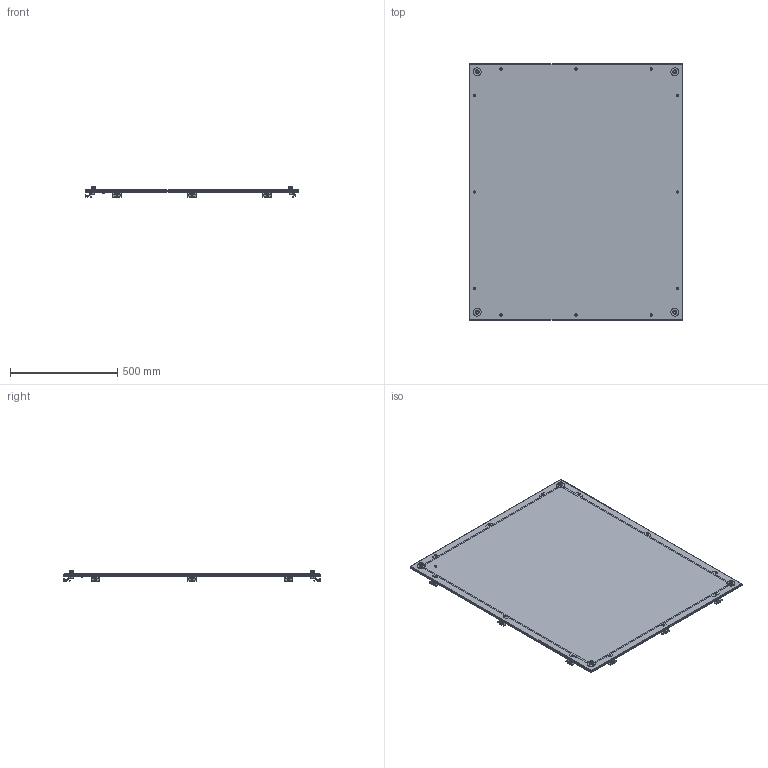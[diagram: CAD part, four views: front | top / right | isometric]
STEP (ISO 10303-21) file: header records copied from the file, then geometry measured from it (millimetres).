
FILE_DESCRIPTION(('STEP AP203'), '1');
FILE_NAME('3301 Êðûøà ÑÁ', '', ('UNSPECIFIED'), ('UNSPECIFIED'), 'C3D Converter', 'C3D Toolkit', '');
FILE_SCHEMA(('CONFIG_CONTROL_DESIGN'));
Length unit declared in the file: millimetre
Products named in the file (14): 3301.120.100; 3310; 3311; 3009.04.ПН; 3009.04.01.ПН; 3009.04.П-К; 3009.04.01.П-К
Assembly tree (56 placements, depth 3):
  3301.120.100
    3310
      3311
      (unnamed)
    (unnamed)  x12
    (unnamed)  x12
    (unnamed)  x4
    (unnamed)  x4
    3009.04.ПН  x3
      3009.04.01.ПН
      (unnamed)
      (unnamed)
    3009.04.П-К  x9
      3009.04.01.П-К
      (unnamed)
      (unnamed)
Bounding box: 996.5 x 1197 x 49 mm (x, y, z)
Volume: 2069993 mm3; surface area: 2680316.7 mm2
Topology: 92 solids, 92 shells, 3020 faces, 7970 edges, 5236 vertices
Faces by surface type: plane 2062, cylinder 806, cone 111, sphere 20, torus 17, bspline 4
Full cylindrical faces by diameter (mm): 4.134 x21, 5 x36, 5.5 x12, 5.8 x21, 6 x1, 7.5 x12, 8.3 x24, 8.5 x12, 9.2 x24, 10 x12, 11.5 x2, 12 x4, 13.5 x4, 14 x4, 18 x4, 37 x4
Entity records: 17976 total; most frequent: CARTESIAN_POINT 6269, DIRECTION 2129, ORIENTED_EDGE 1858, EDGE_CURVE 929, AXIS2_PLACEMENT_3D 760, LINE 609, VECTOR 609, VERTEX_POINT 596
